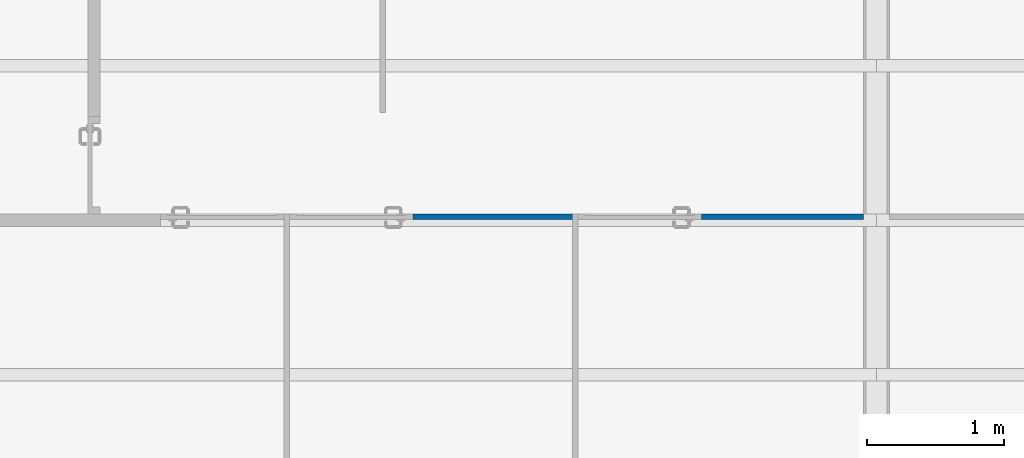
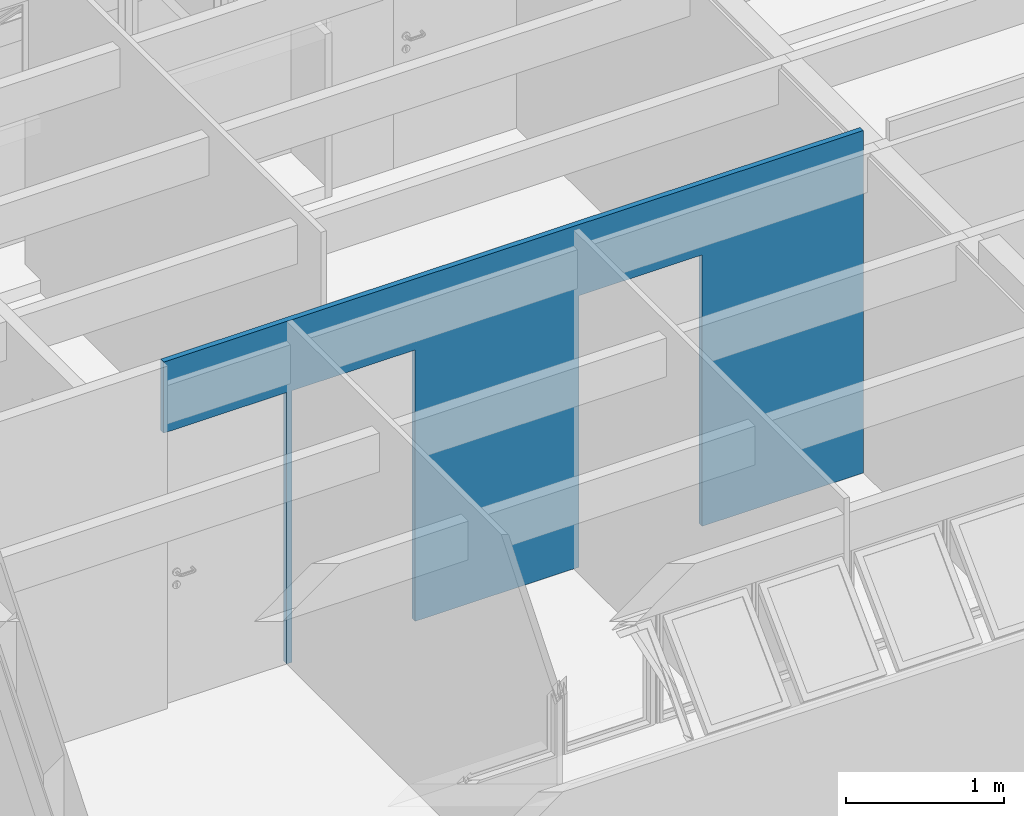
# One storey, part 19 of 40: 1 wall, 3 openings.
"""IFC4 building model written with IfcOpenShell, lengths in millimetres."""

from ifc_helpers import new_model, entity, si_unit, converted_unit, derived_unit, direction, frame, origin_with_axes, origin_2d_with_axis, place, context, subcontext, project, spatial, line, indexed_curve, rectangle, outline, extrude, material, layer, layer_set, layer_usage, type_object, element, save


model = new_model("IFC4")

# Units and contexts
model_context = context("Model", 3, precision=0.01, world=origin_with_axes(), true_north=direction((0.0, 1.0)))
body_context = subcontext(model_context, "Body", "Model", "MODEL_VIEW")
ifc_project = project(units=[si_unit("LENGTHUNIT", "METRE", prefix="MILLI"), si_unit("AREAUNIT", "SQUARE_METRE"), si_unit("VOLUMEUNIT", "CUBIC_METRE"), converted_unit("PLANEANGLEUNIT", "DEGREE", entity("IfcPlaneAngleMeasure", 0.0174532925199), si_unit("PLANEANGLEUNIT", "RADIAN"), dimensions=[0, 0, 0, 0, 0, 0, 0]), converted_unit("TIMEUNIT", "Year", entity("IfcTimeMeasure", 31556926.0), si_unit("TIMEUNIT", "SECOND"), dimensions=[0, 0, 1, 0, 0, 0, 0]), si_unit("MASSUNIT", "GRAM", prefix="KILO"), si_unit("THERMODYNAMICTEMPERATUREUNIT", "DEGREE_CELSIUS"), si_unit("LUMINOUSINTENSITYUNIT", "LUMEN"), si_unit("ENERGYUNIT", "JOULE", prefix="MEGA"), derived_unit("THERMALCONDUCTANCEUNIT", [(si_unit("POWERUNIT", "WATT"), 1), (si_unit("LENGTHUNIT", "METRE"), -1), (si_unit("THERMODYNAMICTEMPERATUREUNIT", "KELVIN"), -1)]), derived_unit("SPECIFICHEATCAPACITYUNIT", [(si_unit("ENERGYUNIT", "JOULE"), 1), (si_unit("MASSUNIT", "GRAM", prefix="KILO"), -1), (si_unit("THERMODYNAMICTEMPERATUREUNIT", "KELVIN"), -1)]), derived_unit("MASSDENSITYUNIT", [(si_unit("MASSUNIT", "GRAM", prefix="KILO"), 1), (si_unit("VOLUMEUNIT", "CUBIC_METRE"), -1)])], contexts=[model_context])

# Site, building, storey
site_placement = place(None, origin_with_axes())
site = spatial("IfcSite", under=ifc_project, at=site_placement, Name="Local", CompositionType="ELEMENT")
building_placement = place(site_placement, origin_with_axes())
building = spatial("IfcBuilding", under=site, at=building_placement, Name="Construção", CompositionType="ELEMENT")
storey_placement = place(building_placement, origin_with_axes())
storey = spatial("IfcBuildingStorey", under=building, at=storey_placement, Name="Primeiro Pavimento", CompositionType="ELEMENT", Elevation=0.0)

# Wall, openings
ifc_material = material(Name="GENÉRICO - VEDAÇÃO EXTERNA")
ifc_layer = layer(ifc_material, 40.0, ventilated="UNKNOWN", Name="GENÉRICO - VEDAÇÃO EXTERNA")
ifc_layer_set = layer_set([ifc_layer], Name="GENÉRICO - VEDAÇÃO EXTERNA 40")
ifc_layer_usage = layer_usage(ifc_layer_set, "AXIS2", "NEGATIVE", 0.0)
wall_type = type_object("IfcWallType", Name="GENÉRICO - VEDAÇÃO EXTERNA 40", PredefinedType="NOTDEFINED")
wall_placement = place(storey_placement, frame((2170.0, 3765.2195667, 0.0), z_axis=(0.0, 0.0, 1.0), x_axis=(0.99999999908, -4.28841203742e-05, 0.0)))
wall = element("IfcWall", 1, at=wall_placement, inside=storey, type_object=wall_type, material=ifc_layer_usage, Name="APTO1-PAREDE-006", PredefinedType="NOTDEFINED", context=body_context, shape_type="SweptSolid", body=[
    extrude(outline(indexed_curve([(0.000857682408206, -40.0), (5120.00000471, -40.0), (5120.00000471, 0.0), (0.0, 0.0)], segments=[line(1, 2, 3, 4, 1)])), origin_with_axes(), (0.0, 0.0, 1.0), 2650.0),
])
opening_1_placement = place(wall_placement, frame((1390.00000471, 0.0, 0.0), z_axis=(0.0, 0.0, 1.0), x_axis=(1.0, 0.0, 0.0)))
element("IfcOpeningElement", 2, at=opening_1_placement, cuts=wall, Name="APTO1-PORTA-002", context=body_context, shape_type="SweptSolid", body=[
    extrude(rectangle(XDim=900.0, YDim=2100.0, at=origin_2d_with_axis()), frame((0.0, -40.0, 1050.0), z_axis=(0.0, 1.0, 0.0), x_axis=(-1.0, 0.0, 0.0)), (0.0, 0.0, 1.0), 120.0),
])
opening_2_placement = place(wall_placement, frame((450.000004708, 0.0, 0.0), z_axis=(0.0, 0.0, 1.0), x_axis=(1.0, 0.0, 0.0)))
element("IfcOpeningElement", 3, at=opening_2_placement, cuts=wall, Name="APTO1-PORTA-001", context=body_context, shape_type="SweptSolid", body=[
    extrude(rectangle(XDim=900.0, YDim=2100.0, at=origin_2d_with_axis()), frame((0.0, -40.0, 1050.0), z_axis=(0.0, -1.0, 0.0), x_axis=(1.0, 0.0, 0.0)), (0.0, 0.0, -1.0), 120.0),
])
opening_3_placement = place(wall_placement, frame((3490.00000471, 0.0, 0.0), z_axis=(0.0, 0.0, 1.0), x_axis=(1.0, 0.0, 0.0)))
element("IfcOpeningElement", 4, at=opening_3_placement, cuts=wall, Name="APTO1-PORTA-000", context=body_context, shape_type="SweptSolid", body=[
    extrude(rectangle(XDim=900.0, YDim=2100.0, at=origin_2d_with_axis()), frame((0.0, -40.0, 1050.0), z_axis=(0.0, 1.0, 0.0), x_axis=(-1.0, 0.0, 0.0)), (0.0, 0.0, 1.0), 120.0),
])

save(model, "model.ifc")
